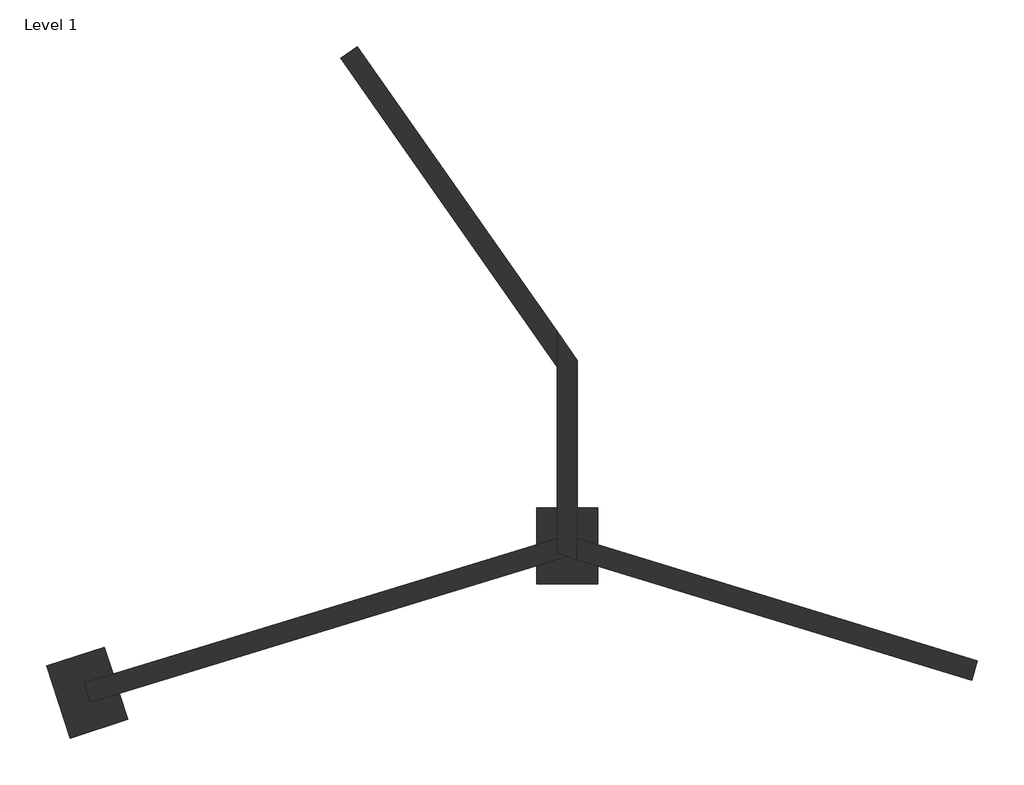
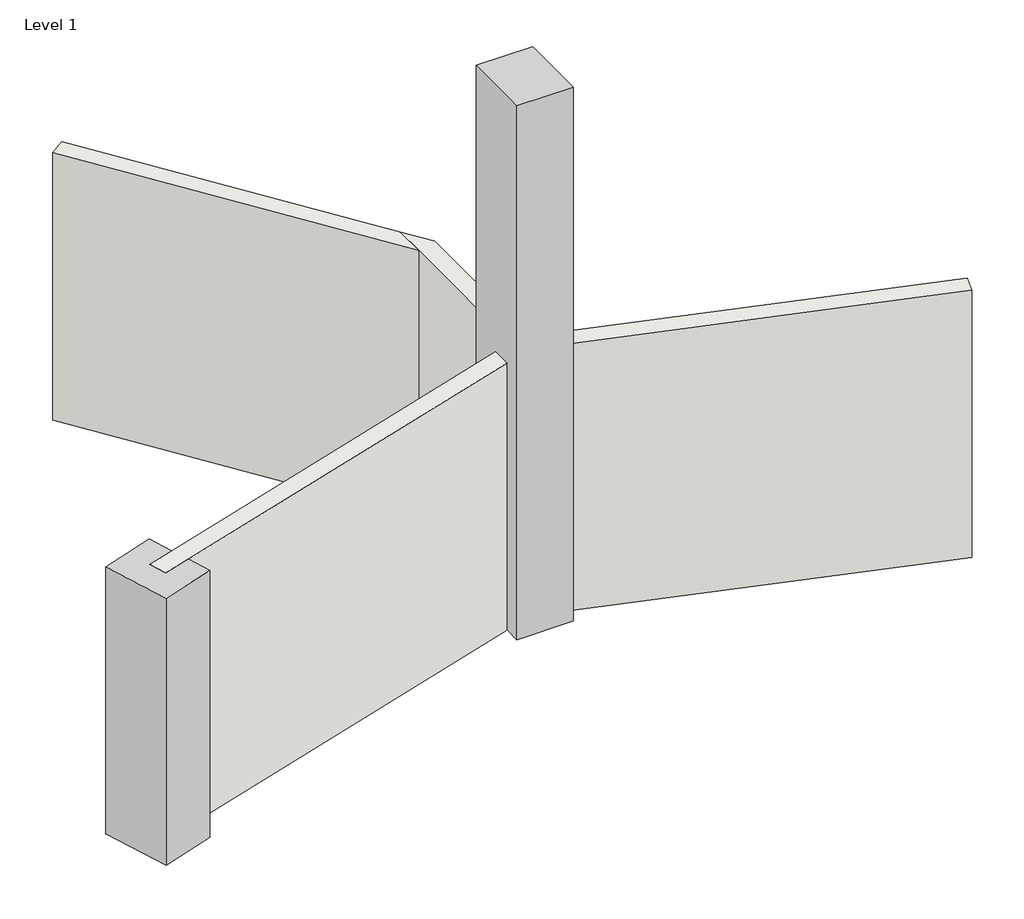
# One storey: 4 walls, 2 columns.
"""IFC4 building model written with IfcOpenShell, lengths in millimetres."""

from ifc_helpers import new_model, si_unit, origin, origin_with_axes, place, context, project, spatial, polyline, outline, extrude, faceted_brep, element, save

model = new_model("IFC4")

# Units and contexts
model_context = context("Model", 3, world=origin())
ifc_project = project(units=[si_unit("LENGTHUNIT", "METRE", prefix="MILLI")], contexts=[model_context])

# Site, building, storey
site = spatial("IfcSite", under=ifc_project)
building = spatial("IfcBuilding", under=site)
storey = spatial("IfcBuildingStorey", under=building, Name="Level 1", Elevation=0.0)

# Columns
placement = place(None, origin())
element("IfcColumn", 1, ObjectType="Concrete-Rectangular-Column : 24 x 30", at=placement, inside=storey, context=model_context, shape_type="Brep", body=[
    faceted_brep([(-6236.1724492, 5649.4040983, 0.0), (-6032.9724492, 5649.4040983, 0.0), (-6032.9724492, 5281.4596691, 0.0), (-6236.1724492, 5343.5841436, 0.0), (-6032.9724492, 5649.4040983, 6096.0), (-6032.9724492, 4887.4040983, 6096.0), (-6032.9724492, 4887.4040983, 0.0), (-6032.9724492, 5068.9751042, 0.0), (-6032.9724492, 5068.9751042, 3048.0), (-6032.9724492, 5281.4596691, 3048.0), (-6642.5724492, 4887.4040983, 0.0), (-6642.5724492, 4887.4040983, 6096.0), (-6642.5724492, 5649.4040983, 6096.0), (-6642.5724492, 5649.4040983, 0.0), (-6642.5724492, 5281.4596691, 0.0), (-6642.5724492, 5281.4596691, 3048.0), (-6642.5724492, 5068.9751042, 3048.0), (-6642.5724492, 5068.9751042, 0.0), (-6236.1724492, 5649.4040983, 3048.0), (-6439.3724492, 5649.4040983, 3048.0), (-6439.3724492, 5649.4040983, 0.0), (-6439.3724492, 5343.5841436, 3048.0), (-6439.3724492, 5343.5841436, 0.0), (-6236.1724492, 5343.5841436, 3048.0), (-6236.1724492, 5131.0995786, 3048.0), (-6337.7724492, 5162.1618159, 3048.0), (-6236.1724492, 5131.0995786, 0.0), (-6337.7724492, 5162.1618159, 0.0)], [[[0, 1, 2, 3]], [[4, 5, 6, 7, 8, 9, 2, 1]], [[10, 6, 5, 11]], [[10, 11, 12, 13, 14, 15, 16, 17]], [[4, 1, 0, 18, 19, 20, 13, 12]], [[5, 4, 12, 11]], [[20, 19, 21, 22]], [[18, 0, 3, 23]], [[19, 18, 23, 9, 8, 24, 25, 16, 15, 21]], [[8, 7, 26, 27, 25, 24]], [[9, 23, 3, 2]], [[13, 20, 22, 14]], [[21, 15, 14, 22]], [[16, 25, 27, 17]], [[6, 10, 17, 27, 26, 7]]]),
])
element("IfcColumn", 2, ObjectType="Concrete-Rectangular-Column : 24 x 30", at=placement, inside=storey, context=model_context, shape_type="SweptSolid", body=[
    extrude(outline(polyline([(-10739.6028269, 3529.8441681), (-11319.3668792, 3341.4674083), (-11554.8378289, 4066.1724738), (-10975.0737766, 4254.5492335), (-10887.0951466, 3983.7788523), (-11176.9252931, 3895.1688841), (-11117.5153627, 3700.8477577), (-10824.2933283, 3790.4947301), (-10739.6028269, 3529.8441681)])), origin_with_axes(), (0.0, 0.0, 1.0), 3048.0),
])

# Walls
element("IfcWall", 3, ObjectType="Generic - 8\"", at=placement, inside=storey, context=model_context, shape_type="Brep", body=[
    faceted_brep([(-6439.3724492, 7419.4381302, 0.0), (-6439.3724492, 7065.1697414, 0.0), (-6439.3724492, 5649.4040983, 0.0), (-6439.3724492, 5343.5841436, 0.0), (-6439.3724492, 5193.2240531, 0.0), (-6439.3724492, 5193.2240531, 3048.0), (-6439.3724492, 5343.5841436, 3048.0), (-6439.3724492, 5649.4040983, 3048.0), (-6439.3724492, 7065.1697414, 3048.0), (-6439.3724492, 7419.4381302, 3048.0), (-6236.1724492, 7129.2384553, 0.0), (-6236.1724492, 7129.2384553, 3048.0), (-6236.1724492, 5649.4040983, 3048.0), (-6236.1724492, 5343.5841436, 3048.0), (-6236.1724492, 5131.0995786, 3048.0), (-6236.1724492, 5131.0995786, 0.0), (-6236.1724492, 5343.5841436, 0.0), (-6236.1724492, 5649.4040983, 0.0), (-6337.7724492, 5162.1618159, 0.0), (-6337.7724492, 5162.1618159, 3048.0)], [[[0, 1, 2, 3, 4, 5, 6, 7, 8, 9]], [[10, 11, 12, 13, 14, 15, 16, 17]], [[4, 3, 2, 1, 0, 10, 17, 16, 15, 18]], [[9, 8, 7, 6, 5, 19, 14, 13, 12, 11]], [[5, 4, 18, 15, 14, 19]], [[0, 9, 11, 10]]]),
])
element("IfcWall", 4, ObjectType="Generic - 8\"", at=placement, inside=storey, context=model_context, shape_type="Brep", body=[
    faceted_brep([(-6236.1724492, 5131.0995786, 0.0), (-6032.9724492, 5068.9751042, 0.0), (-2286.7337598, 3923.6349967, 0.0), (-2286.7337598, 3923.6349967, 3048.0), (-6032.9724492, 5068.9751042, 3048.0), (-6236.1724492, 5131.0995786, 3048.0), (-6236.1724492, 5343.5841436, 0.0), (-6236.1724492, 5343.5841436, 3048.0), (-6032.9724492, 5281.4596691, 3048.0), (-2227.3238294, 4117.9561231, 3048.0), (-2227.3238294, 4117.9561231, 0.0), (-6032.9724492, 5281.4596691, 0.0)], [[[0, 1, 2, 3, 4, 5]], [[6, 7, 8, 9, 10, 11]], [[2, 1, 0, 6, 11, 10]], [[3, 2, 10, 9]], [[5, 4, 3, 9, 8, 7]], [[0, 5, 7, 6]]]),
])
element("IfcWall", 5, ObjectType="Generic - 8\"", at=placement, inside=storey, context=model_context, shape_type="Brep", body=[
    faceted_brep([(-6439.3724492, 5343.5841436, 0.0), (-6642.5724492, 5281.4596691, 0.0), (-10887.0951466, 3983.7788523, 0.0), (-11176.9252931, 3895.1688841, 0.0), (-11176.9252931, 3895.1688841, 3048.0), (-10887.0951466, 3983.7788523, 3048.0), (-6642.5724492, 5281.4596691, 3048.0), (-6439.3724492, 5343.5841436, 3048.0), (-6337.7724492, 5162.1618159, 0.0), (-6337.7724492, 5162.1618159, 3048.0), (-6642.5724492, 5068.9751042, 3048.0), (-10824.2933283, 3790.4947301, 3048.0), (-11117.5153627, 3700.8477577, 3048.0), (-11117.5153627, 3700.8477577, 0.0), (-10824.2933283, 3790.4947301, 0.0), (-6642.5724492, 5068.9751042, 0.0), (-6439.3724492, 5193.2240531, 0.0), (-6439.3724492, 5193.2240531, 3048.0)], [[[0, 1, 2, 3, 4, 5, 6, 7]], [[8, 9, 10, 11, 12, 13, 14, 15]], [[3, 2, 1, 0, 16, 8, 15, 14, 13]], [[4, 3, 13, 12]], [[7, 6, 5, 4, 12, 11, 10, 9, 17]], [[0, 7, 17, 16]], [[17, 9, 8, 16]]]),
])
element("IfcWall", 6, ObjectType="Generic - 8\"", at=placement, inside=storey, context=model_context, shape_type="SweptSolid", body=[
    extrude(outline(polyline([(-8439.872824, 10276.448753), (-6439.3724492, 7419.4381302), (-6439.3724492, 7065.1697414), (-8606.3245194, 10159.8980211), (-8439.872824, 10276.448753)])), origin_with_axes(), (0.0, 0.0, 1.0), 3048.0),
])

save(model, "model.ifc")
